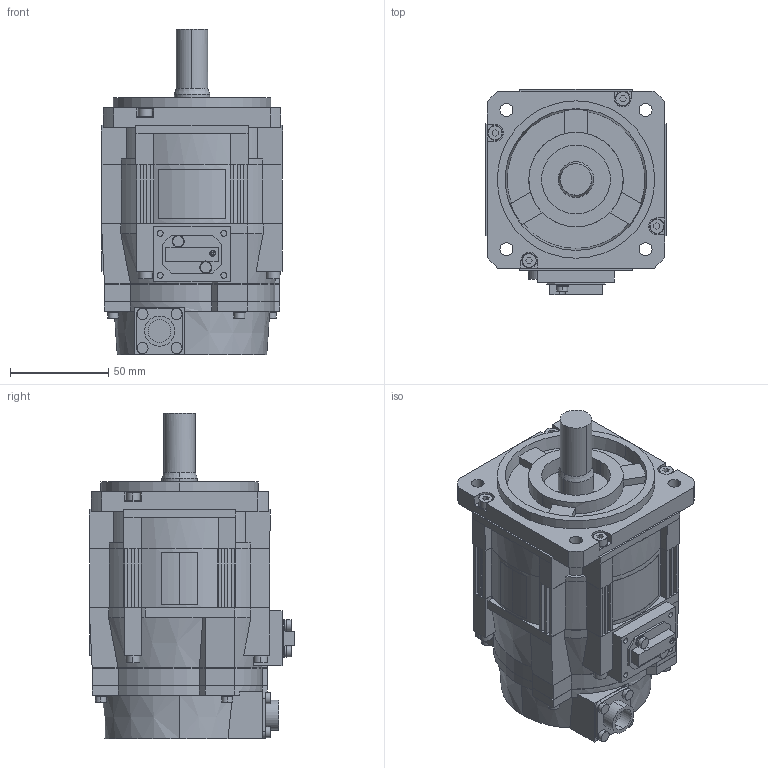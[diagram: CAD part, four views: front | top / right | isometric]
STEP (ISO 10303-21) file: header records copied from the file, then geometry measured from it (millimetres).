
FILE_DESCRIPTION((''),'2;1');
FILE_NAME('SGM7G_03_A21','2013-11-20T',('y-kamei'),('YASKAWA ELECTRIC CORCORATION'),'PRO/ENGINEER BY PARAMETRIC TECHNOLOGY CORPORATION, 2011490','PRO/ENGINEER BY PARAMETRIC TECHNOLOGY CORPORATION, 2011490','');
FILE_SCHEMA(('AUTOMOTIVE_DESIGN { 1 0 10303 214 1 1 1 1 }'));
Length unit declared in the file: millimetre
Products named in the file (1): SGM7G_03_A21
Bounding box: 92 x 104.5 x 165.6 mm (x, y, z)
Volume: 847316.4 mm3; surface area: 80159.6 mm2
Topology: 1 solids, 1 shells, 620 faces, 1550 edges, 1001 vertices
Faces by surface type: plane 432, cylinder 167, cone 21
Entity records: 26100 total; most frequent: CARTESIAN_POINT 3329, DIRECTION 3159, ORIENTED_EDGE 3100, EDGE_CURVE 1550, FILL_AREA_STYLE_COLOUR 1240, FILL_AREA_STYLE 1240, SURFACE_STYLE_FILL_AREA 1240, SURFACE_SIDE_STYLE 1240
